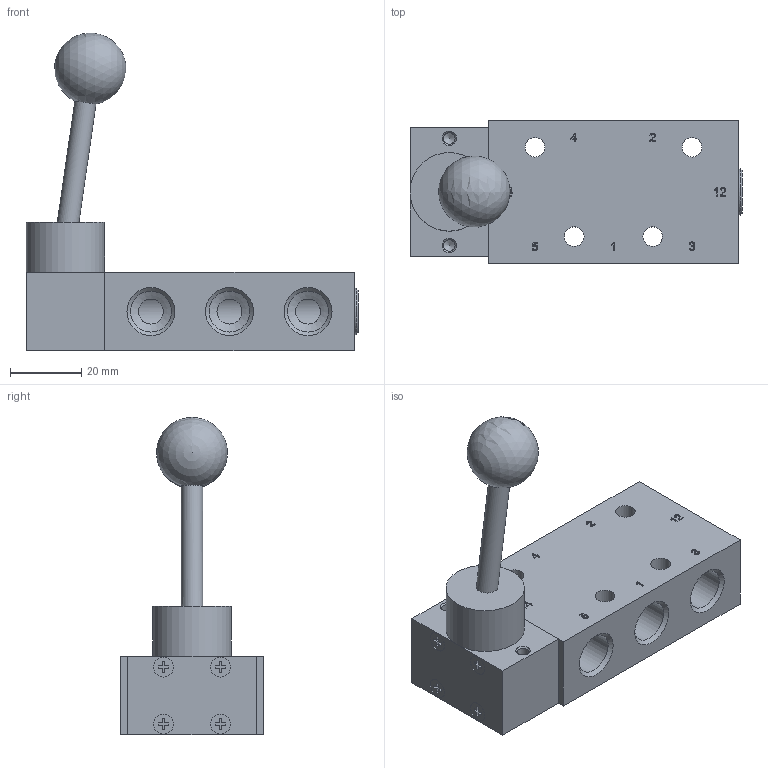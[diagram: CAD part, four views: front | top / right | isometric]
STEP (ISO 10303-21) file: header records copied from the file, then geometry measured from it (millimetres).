
FILE_DESCRIPTION(/* description */ ('Unknown','CAx-IF Rec.Pracs.---Representation and Presentation of Product Manufacturing Information (PMI)---4.0---2014-10-13','CAx-IF Rec.Pracs.---3D Tessellated Geometry---0.4---2014-09-14','2;1'),/* implementation_level */ '2;1');
FILE_NAME(/* name */ 'HVR 520 701',/* time_stamp */ '2020-07-06T14:45:59+02:00',/* author */ ('Unknown'),/* organization */ ('Unknown'),/* preprocessor_version */ 'ST-DEVELOPER v16.7',/* originating_system */ 'DEX',/* authorisation */ $);
FILE_SCHEMA (('AP242_MANAGED_MODEL_BASED_3D_ENGINEERING_MIM_LF { 1 0 10303 442 20130219 1 4 }'));
Length unit declared in the file: millimetre
Products named in the file (2): HVR 520 701
Assembly tree (1 placements, depth 2):
  HVR 520 701
    HVR 520 701
Bounding box: 93 x 40 x 88.99 mm (x, y, z)
Volume: 71073.1 mm3; surface area: 24900.5 mm2
Topology: 3 solids, 3 shells, 383 faces, 1012 edges, 673 vertices
Faces by surface type: plane 224, bspline 72, cylinder 58, cone 27, torus 1, sphere 1
Full cylindrical faces by diameter (mm): 1.6 x1, 2.459 x8, 3.242 x4, 5.5 x4, 5.6 x4, 6 x1, 7 x5, 9 x1, 10 x1, 11.445 x10, 12 x2, 12.06 x1, 13 x1, 22 x1
Entity records: 14653 total; most frequent: CARTESIAN_POINT 3453, ORIENTED_EDGE 1786, DIRECTION 1485, EDGE_CURVE 893, VERTEX_POINT 633, LINE 615, VECTOR 615, FACE_BOUND 522
